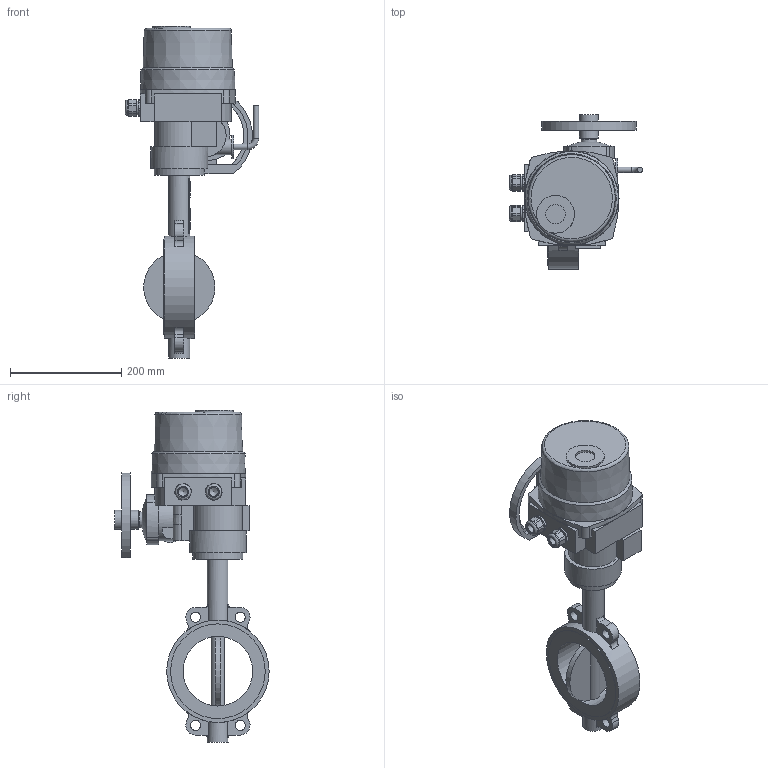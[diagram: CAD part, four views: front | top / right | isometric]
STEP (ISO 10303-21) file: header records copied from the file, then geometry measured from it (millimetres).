
FILE_DESCRIPTION(('STEP AP203'), '1');
FILE_NAME('青蜮铕 017WDN125+菹 QT10-1', '', ('UNSPECIFIED'), ('UNSPECIFIED'), 'ASCON STEP Converter 1.6', 'ASCON Math Kernel', '');
FILE_SCHEMA(('CONFIG_CONTROL_DESIGN'));
Length unit declared in the file: millimetre
Bounding box: 239.5 x 277 x 596 mm (x, y, z)
Volume: 5075447.3 mm3; surface area: 425039.8 mm2
Topology: 2 solids, 3 shells, 843 faces, 2397 edges, 1544 vertices
Faces by surface type: cylinder 542, plane 286, torus 9, cone 5, bspline 1
Full cylindrical faces by diameter (mm): 6.8 x4, 10 x6, 16 x2, 17 x2, 18 x4, 18.9 x1, 20 x1, 22.835 x2, 25 x2, 28 x3, 28.026 x1, 34 x2, 35 x1, 38 x2, 42 x1, 55 x1, 68 x1, 90 x1, 102 x1, 125 x1, 170 x2, 184 x1
Entity records: 35980 total; most frequent: CARTESIAN_POINT 6394, DIRECTION 5167, ORIENTED_EDGE 4625, EDGE_CURVE 2344, AXIS2_PLACEMENT_3D 2019, VERTEX_POINT 1542, CIRCLE 1176, LINE 1129
